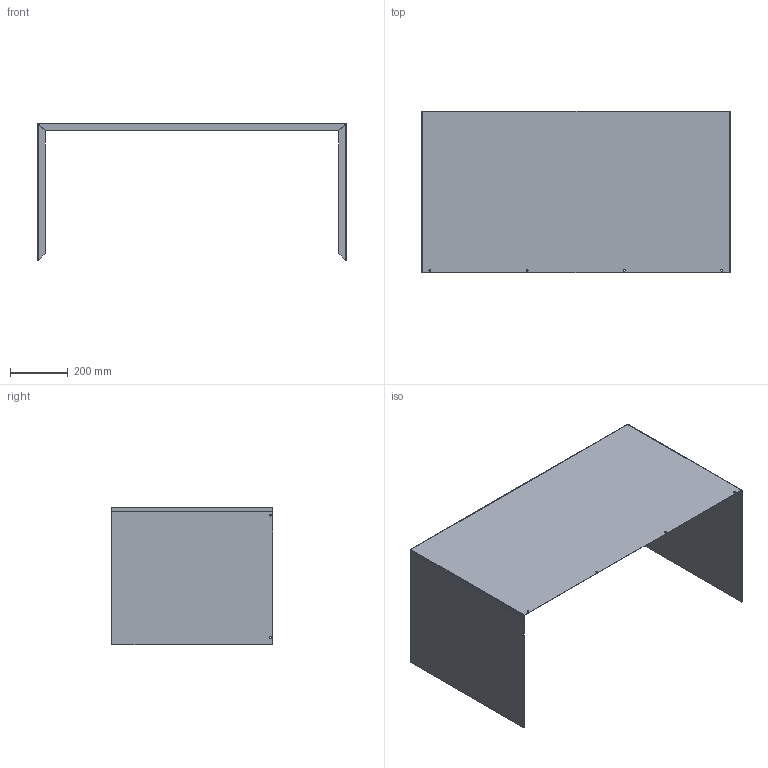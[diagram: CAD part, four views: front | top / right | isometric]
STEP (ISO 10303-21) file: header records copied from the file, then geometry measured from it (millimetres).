
FILE_DESCRIPTION (( 'STEP AP214' ), '1' );
FILE_NAME ('QPBX42-10.STEP', '2016-07-28T13:17:39', ( 'BMC' ), ( 'Bard Manufacturing Co., Inc.' ), 'SwSTEP 2.0', 'SolidWorks 2016', '' );
FILE_SCHEMA (( 'AUTOMOTIVE_DESIGN' ));
Length unit declared in the file: inch
Products named in the file (3): 104-1055; 104-1054; QPBX42-10
Assembly tree (3 placements, depth 2):
  QPBX42-10
    104-1054
    104-1055  x2
Bounding box: 1067.15 x 558.8 x 476.03 mm (x, y, z)
Volume: 1142574.4 mm3; surface area: 2374921.8 mm2
Topology: 3 solids, 3 shells, 88 faces, 206 edges, 124 vertices
Faces by surface type: plane 58, cylinder 26, bspline 4
Entity records: 2094 total; most frequent: CARTESIAN_POINT 382, DIRECTION 336, ORIENTED_EDGE 320, EDGE_CURVE 160, LINE 112, AXIS2_PLACEMENT_3D 112, VECTOR 112, VERTEX_POINT 96
